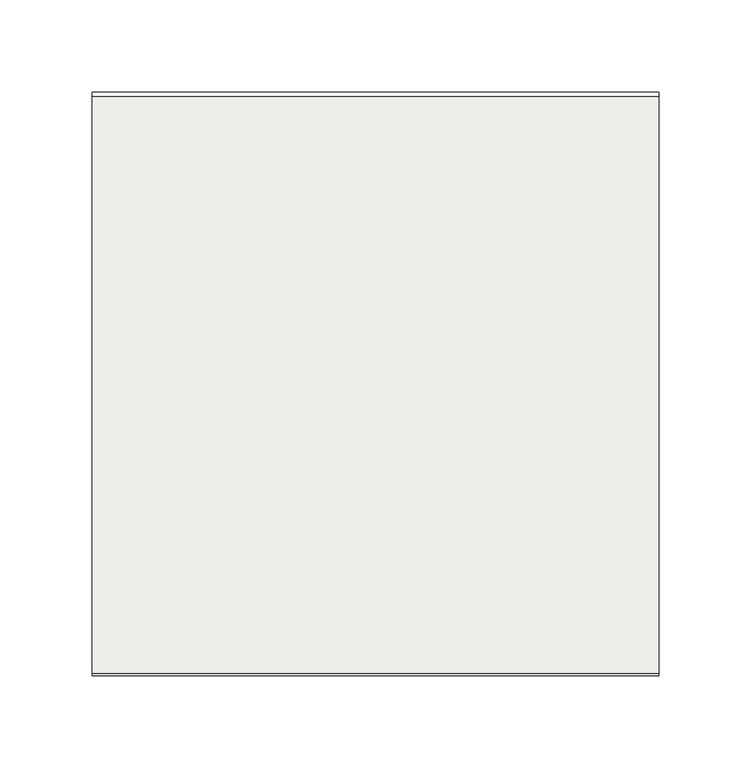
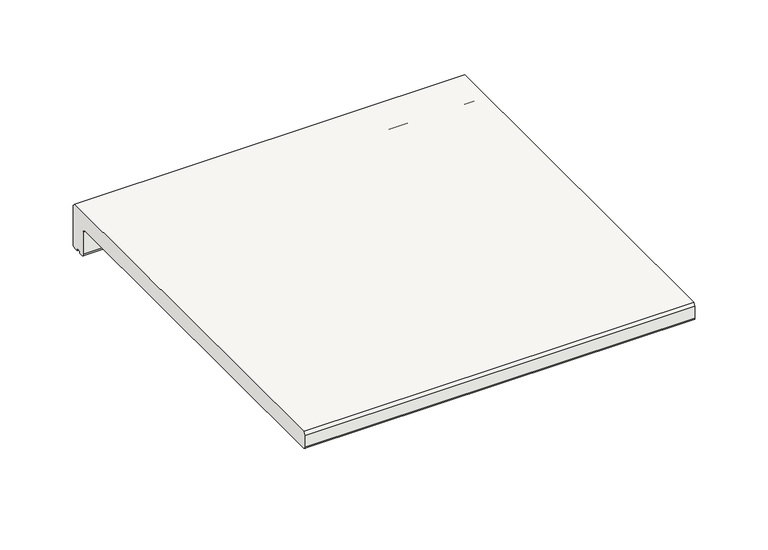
"""IFC4 building model written with IfcOpenShell, lengths in millimetres: slab geometry, ROSA GRES_L62 : Pieza L62_Tresor_Java_Anti-Slip."""

from ifc_helpers import new_model, si_unit, point, frame, frame_2d, origin, place, context, project, spatial, polyline, circle_curve, trimmed, segment, composite_curve, outline, extrude, source, transform, mapped, element, save


def slab_9f48864e(model_context):
    return source(origin(), model_context, "Body", "SweptSolid", [
        extrude(outline(composite_curve([segment(trimmed(circle_curve(frame_2d((-12.1001991, -35.1001991)), 1.8998009), [point((-12.1001991, -37.0))], [point((-14.0, -35.1001991))], False, "CARTESIAN"), True, "CONTINUOUS"), segment(polyline([(-14.0, -35.1001991), (-14.0, -16.5836242)]), True, "CONTINUOUS"), segment(trimmed(circle_curve(frame_2d((-16.6422322, -16.5836242)), 2.6422322), [point((-14.0, -16.5836242))], [point((-16.6422322, -13.9413919))], True, "CARTESIAN"), True, "CONTINUOUS"), segment(polyline([(-16.6422322, -13.9413919), (-315.5234432, -13.9413919)]), True, "CONTINUOUS"), segment(trimmed(circle_curve(frame_2d((-315.5234432, -12.4648352)), 1.4765568), [point((-315.5234432, -13.9413919))], [point((-317.0, -12.4648352))], False, "CARTESIAN"), True, "CONTINUOUS"), segment(polyline([(-317.0, -12.4648352), (-317.0, -2.5), (-315.5, 0.0), (-2.5, 0.0), (0.0, -2.5), (0.0, -34.5)]), True, "CONTINUOUS"), segment(trimmed(circle_curve(frame_2d((-2.5, -34.5)), 2.5), [point((0.0, -34.5))], [point((-2.5, -37.0))], False, "CARTESIAN"), True, "CONTINUOUS"), segment(polyline([(-2.5, -37.0), (-5.422949, -37.0)]), True, "CONTINUOUS"), segment(trimmed(circle_curve(frame_2d((-7.4142134, -37.0)), 1.9912643), [point((-5.422949, -37.0))], [point((-9.4054777, -37.0))], True, "CARTESIAN"), True, "CONTINUOUS"), segment(polyline([(-9.4054777, -37.0), (-12.1001991, -37.0)]), True, "CONTINUOUS")], self_intersect=False)), frame((0.0, 0.0, 0.0), z_axis=(1.0, 0.0, 0.0), x_axis=(0.0, 1.0, 0.0)), (0.0, 0.0, 1.0), 308.0),
    ])


if __name__ == "__main__":
    model = new_model("IFC4")
    model_context = context("Model", 3, world=origin())
    ifc_project = project(units=[si_unit("LENGTHUNIT", "METRE", prefix="MILLI")], contexts=[model_context])
    site = spatial("IfcSite", under=ifc_project)
    building = spatial("IfcBuilding", under=site)
    placement = place(None, origin())
    slab_shape = slab_9f48864e(model_context)
    element("IfcSlab", 1, ObjectType="ROSA GRES_L62 : Pieza L62_Tresor_Java_Anti-Slip", at=placement, inside=building, context=model_context, shape_type="MappedRepresentation", body=[
        mapped(slab_shape, transform((0.0, 0.0, 0.0), x_axis=(1.0, 0.0, 0.0), y_axis=(0.0, 1.0, 0.0), z_axis=(0.0, 0.0, 1.0))),
    ])
    save(model, "model.ifc")
